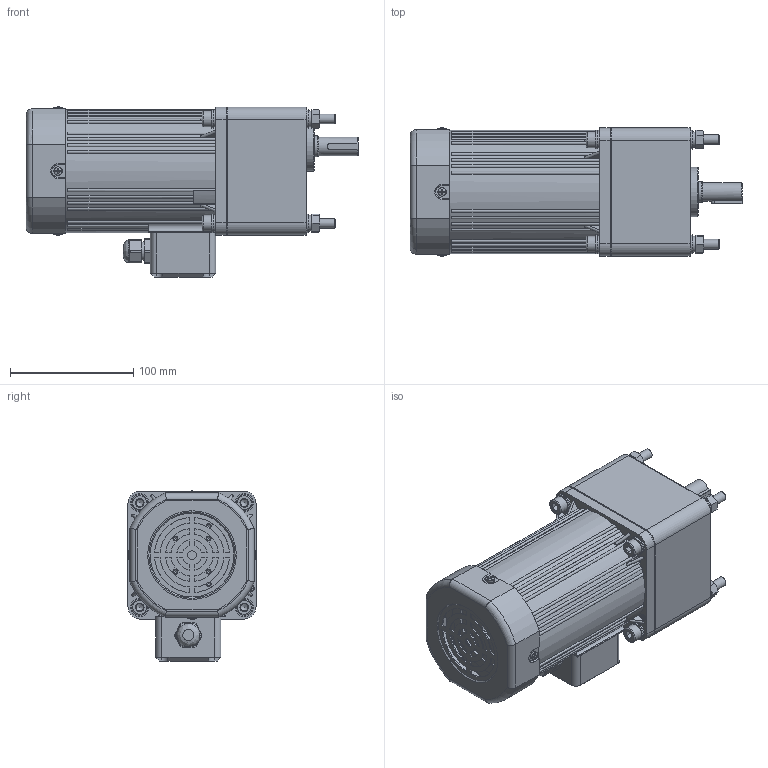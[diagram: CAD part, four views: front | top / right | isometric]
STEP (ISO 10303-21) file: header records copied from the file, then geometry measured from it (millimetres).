
FILE_DESCRIPTION(/* description */ (''),/* implementation_level */ '2;1');
FILE_NAME(/* name */ '6RK160-200GUC·TF_6GU3-750K-C·15T常规接线盒.stp',/* time_stamp */ '2025-04-13T15:54:26+08:00',/* author */ (''),/* organization */ (''),/* preprocessor_version */ 'ST-DEVELOPER v18.102',/* originating_system */ 'SIEMENS PLM Software NX 2027',/* authorisation */ '');
FILE_SCHEMA (('AP203_CONFIGURATION_CONTROLLED_3D_DESIGN_OF_MECHANICAL_PARTS_AND_ASSEMBLIES_MIM_LF { 1 0 10303 403 2 1 2}'));
Length unit declared in the file: millimetre
Products named in the file (1): 6RK160-200CC·F_6GU3-750K-C·15T_stp_objects
Bounding box: 269.5 x 104.06 x 138.03 mm (x, y, z)
Volume: 992994 mm3; surface area: 288725.6 mm2
Topology: 31 solids, 32 shells, 1380 faces, 3536 edges, 2281 vertices
Faces by surface type: plane 556, cylinder 372, cone 189, bspline 176, torus 71, sphere 16
Full cylindrical faces by diameter (mm): 3 x16, 3.5 x4, 3.6 x4, 4 x5, 4.5 x4, 4.55 x1, 5.15 x1, 6.8 x4, 6.985 x4, 7 x1, 7.76 x4, 8.4 x8, 8.5 x4, 9 x9, 12 x1, 13 x5, 14 x5, 15 x12, 15.5 x1, 16 x1, 17 x1, 17.3 x1, 18 x1, 19 x2, 21 x1, 28 x1, 30 x2, 35 x1, 40 x1, 45 x1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
Entity records: 41540 total; most frequent: CARTESIAN_POINT 10414, ORIENTED_EDGE 6310, DIRECTION 5940, EDGE_CURVE 3155, AXIS2_PLACEMENT_3D 2385, VERTEX_POINT 2156, EDGE_LOOP 1770, ADVANCED_FACE 1380
